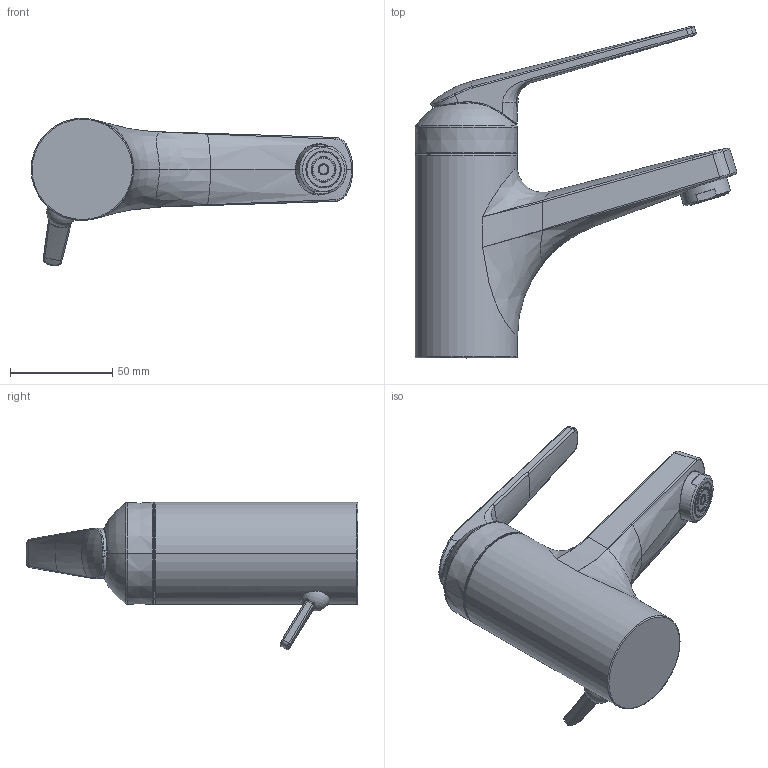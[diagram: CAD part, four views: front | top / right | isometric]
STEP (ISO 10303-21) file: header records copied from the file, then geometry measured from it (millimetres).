
FILE_DESCRIPTION((''),'2;1');
FILE_NAME('12_061_031_XXX','2012-06-04T',('azb9'),(''),'PRO/ENGINEER BY PARAMETRIC TECHNOLOGY CORPORATION, 2011080','PRO/ENGINEER BY PARAMETRIC TECHNOLOGY CORPORATION, 2011080','');
FILE_SCHEMA(('AUTOMOTIVE_DESIGN_CC2 { 1 2 10303 214 -1 1 5 2 }'));
Length unit declared in the file: millimetre
Products named in the file (1): 12_061_031_XXX
Bounding box: 157.19 x 162.18 x 72.07 mm (x, y, z)
Volume: 341931.8 mm3; surface area: 40000.9 mm2
Topology: 1 solids, 2 shells, 219 faces, 500 edges, 293 vertices
Faces by surface type: bspline 119, cylinder 37, plane 24, torus 24, cone 8, sphere 7
Entity records: 16117 total; most frequent: CARTESIAN_POINT 9509, ORIENTED_EDGE 996, DIRECTION 672, EDGE_CURVE 498, FILL_AREA_STYLE_COLOUR 397, FILL_AREA_STYLE 397, SURFACE_STYLE_FILL_AREA 397, SURFACE_SIDE_STYLE 397
